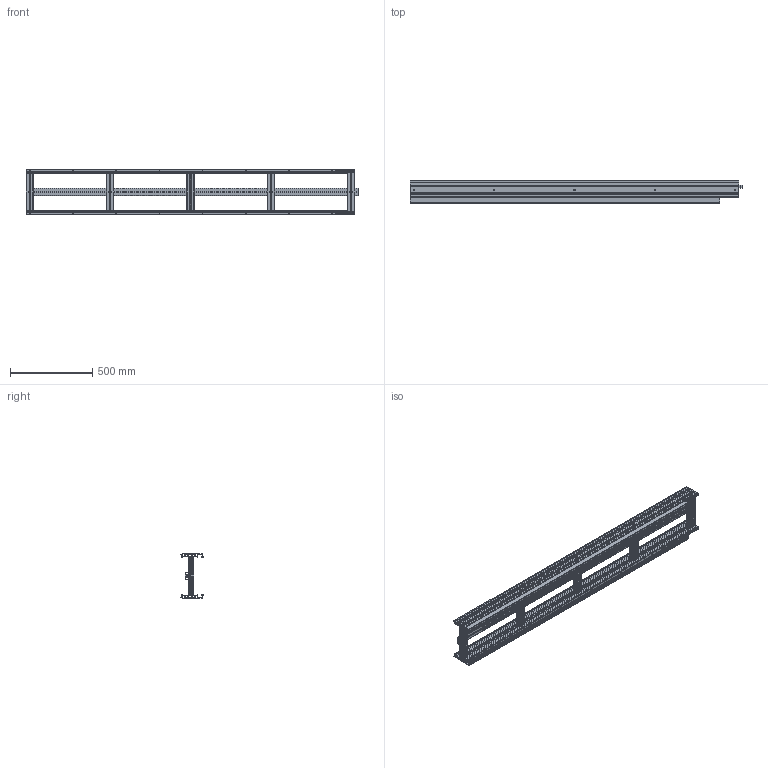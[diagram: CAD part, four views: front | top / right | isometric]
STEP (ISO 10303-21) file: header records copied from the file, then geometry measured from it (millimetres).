
FILE_DESCRIPTION (( 'STEP AP203' ), '1' );
FILE_NAME ('2000.1000.002.STEP', '2015-04-15T14:30:18', ( '' ), ( '' ), 'SwSTEP 2.0', 'SolidWorks 2012', '' );
FILE_SCHEMA (( 'CONFIG_CONTROL_DESIGN' ));
Length unit declared in the file: millimetre
Products named in the file (1): 2000.1000.002
Bounding box: 2019 x 134.24 x 270 mm (x, y, z)
Volume: 5118457.6 mm3; surface area: 3833625.2 mm2
Topology: 14 solids, 14 shells, 927 faces, 2696 edges, 1774 vertices
Faces by surface type: plane 539, cylinder 364, cone 24
Entity records: 32269 total; most frequent: CARTESIAN_POINT 6918, ORIENTED_EDGE 5392, DIRECTION 5184, EDGE_CURVE 2696, LINE 1872, VECTOR 1872, VERTEX_POINT 1774, AXIS2_PLACEMENT_3D 1656
